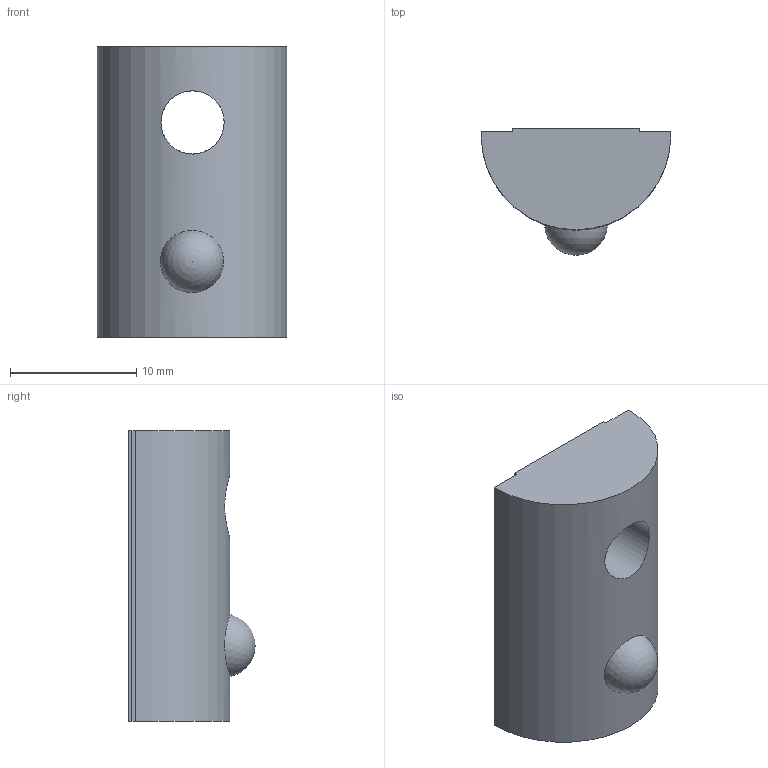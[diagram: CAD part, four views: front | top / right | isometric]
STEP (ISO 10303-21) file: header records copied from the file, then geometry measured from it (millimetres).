
FILE_DESCRIPTION (( 'STEP AP203' ), '1' );
FILE_NAME ('5060.STEP', '2017-02-02T09:01:24', ( 'RosInstal-MKM' ), ( '' ), 'SwSTEP 2.0', 'SolidWorks 2014', '' );
FILE_SCHEMA (( 'CONFIG_CONTROL_DESIGN' ));
Length unit declared in the file: millimetre
Products named in the file (1): 5060
Bounding box: 15.01 x 9.99 x 23 mm (x, y, z)
Volume: 2020.7 mm3; surface area: 1226.9 mm2
Topology: 1 solids, 2 shells, 17 faces, 45 edges, 31 vertices
Faces by surface type: plane 8, cylinder 5, cone 2, sphere 2
Entity records: 693 total; most frequent: CARTESIAN_POINT 208, DIRECTION 86, ORIENTED_EDGE 80, EDGE_CURVE 40, AXIS2_PLACEMENT_3D 32, VERTEX_POINT 28, LINE 22, VECTOR 22
